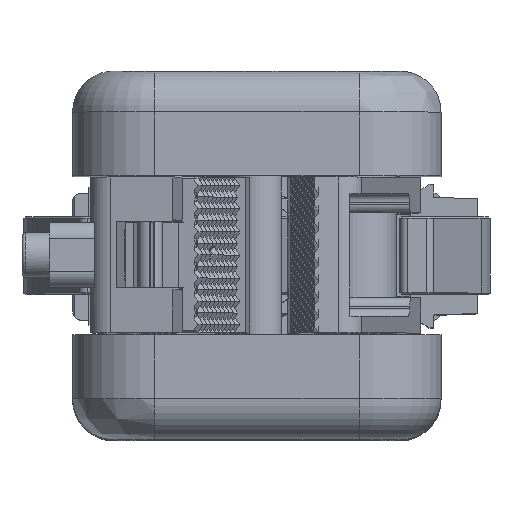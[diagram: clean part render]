
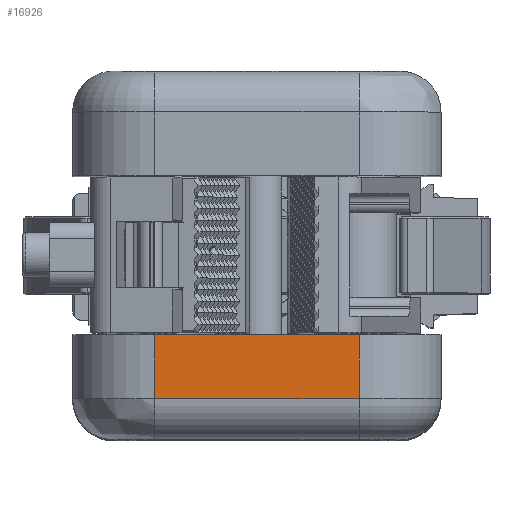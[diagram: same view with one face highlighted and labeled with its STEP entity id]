
A CAD part, top view. The second image highlights one B-rep face of the part: STEP entity #16926.
In plain terms, the highlighted planar face has unit normal (0, 0, 1).
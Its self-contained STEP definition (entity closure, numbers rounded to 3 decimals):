
#389=LINE('',#40264,#2522);
#390=LINE('',#40267,#2523);
#391=LINE('',#40269,#2524);
#392=LINE('',#40271,#2525);
#2522=VECTOR('',#33948,1.);
#2523=VECTOR('',#33949,1.);
#2524=VECTOR('',#33950,1.);
#2525=VECTOR('',#33951,1.);
#14654=PLANE('',#31664);
#15752=FACE_OUTER_BOUND('',#19125,.T.);
#16926=ADVANCED_FACE('',(#15752),#14654,.F.);
#19125=EDGE_LOOP('',(#20991,#20992,#20993,#20994));
#20991=ORIENTED_EDGE('',*,*,#28311,.T.);
#20992=ORIENTED_EDGE('',*,*,#28312,.T.);
#20993=ORIENTED_EDGE('',*,*,#28313,.T.);
#20994=ORIENTED_EDGE('',*,*,#28314,.T.);
#26631=VERTEX_POINT('',#40265);
#26632=VERTEX_POINT('',#40266);
#26633=VERTEX_POINT('',#40268);
#26634=VERTEX_POINT('',#40270);
#28311=EDGE_CURVE('',#26631,#26632,#389,.T.);
#28312=EDGE_CURVE('',#26632,#26633,#390,.T.);
#28313=EDGE_CURVE('',#26633,#26634,#391,.T.);
#28314=EDGE_CURVE('',#26634,#26631,#392,.T.);
#31664=AXIS2_PLACEMENT_3D('',#40272,#33952,#33953);
#33948=DIRECTION('',(1.,0.,0.));
#33949=DIRECTION('',(0.,1.,0.));
#33950=DIRECTION('',(-1.,0.,0.));
#33951=DIRECTION('',(0.,-1.,0.));
#33952=DIRECTION('',(0.,0.,-1.));
#33953=DIRECTION('',(-1.,0.,0.));
#40264=CARTESIAN_POINT('',(22.5,-17.5,203.));
#40265=CARTESIAN_POINT('',(-12.5,-17.5,203.));
#40266=CARTESIAN_POINT('',(12.5,-17.5,203.));
#40267=CARTESIAN_POINT('',(12.5,-22.5,203.));
#40268=CARTESIAN_POINT('',(12.5,-9.7,203.));
#40269=CARTESIAN_POINT('',(-22.5,-9.7,203.));
#40270=CARTESIAN_POINT('',(-12.5,-9.7,203.));
#40271=CARTESIAN_POINT('',(-12.5,-22.5,203.));
#40272=CARTESIAN_POINT('',(-22.5,-22.5,203.));
